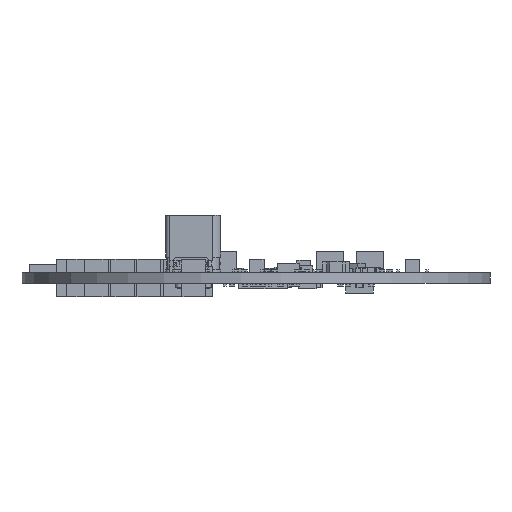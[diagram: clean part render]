
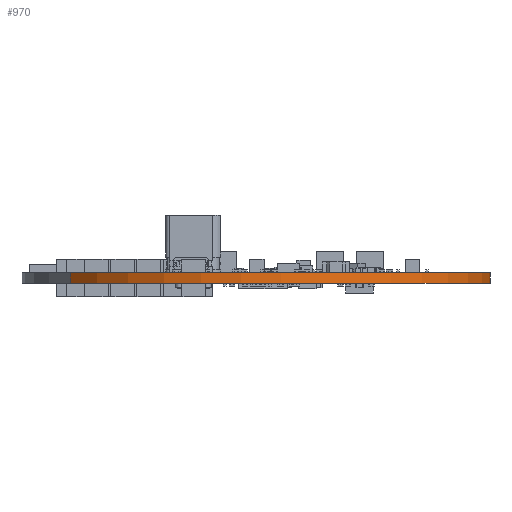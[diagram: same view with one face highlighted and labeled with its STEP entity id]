
A CAD part, front view. The second image highlights one B-rep face of the part: STEP entity #970.
In plain terms, the highlighted cylindrical face has radius 43.508 mm (diameter 87.015 mm), a partial arc.
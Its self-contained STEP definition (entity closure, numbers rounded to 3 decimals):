
#833 = EDGE_CURVE('',#834,#836,#838,.T.);
#834 = VERTEX_POINT('',#835);
#835 = CARTESIAN_POINT('',(-34.563,-26.427,0.));
#836 = VERTEX_POINT('',#837);
#837 = CARTESIAN_POINT('',(-34.563,-26.427,2.));
#838 = LINE('',#839,#840);
#839 = CARTESIAN_POINT('',(-34.563,-26.427,0.));
#840 = VECTOR('',#841,1.);
#841 = DIRECTION('',(0.,0.,1.));
#943 = VERTEX_POINT('',#944);
#944 = CARTESIAN_POINT('',(26.428,34.56,2.));
#951 = EDGE_CURVE('',#952,#943,#954,.T.);
#952 = VERTEX_POINT('',#953);
#953 = CARTESIAN_POINT('',(26.428,34.56,0.));
#954 = LINE('',#955,#956);
#955 = CARTESIAN_POINT('',(26.428,34.56,0.));
#956 = VECTOR('',#957,1.);
#957 = DIRECTION('',(0.,0.,1.));
#970 = ADVANCED_FACE('',(#971),#989,.T.);
#971 = FACE_BOUND('',#972,.T.);
#972 = EDGE_LOOP('',(#973,#974,#981,#982));
#973 = ORIENTED_EDGE('',*,*,#951,.T.);
#974 = ORIENTED_EDGE('',*,*,#975,.T.);
#975 = EDGE_CURVE('',#943,#836,#976,.T.);
#976 = CIRCLE('',#977,43.508);
#977 = AXIS2_PLACEMENT_3D('',#978,#979,#980);
#978 = CARTESIAN_POINT('',(-0.001,0.,
    2.));
#979 = DIRECTION('',(0.,-0.,-1.));
#980 = DIRECTION('',(0.607,0.794,-0.));
#981 = ORIENTED_EDGE('',*,*,#833,.F.);
#982 = ORIENTED_EDGE('',*,*,#983,.F.);
#983 = EDGE_CURVE('',#952,#834,#984,.T.);
#984 = CIRCLE('',#985,43.508);
#985 = AXIS2_PLACEMENT_3D('',#986,#987,#988);
#986 = CARTESIAN_POINT('',(-0.001,0.,0.));
#987 = DIRECTION('',(0.,-0.,-1.));
#988 = DIRECTION('',(0.607,0.794,-0.));
#989 = CYLINDRICAL_SURFACE('',#990,43.508);
#990 = AXIS2_PLACEMENT_3D('',#991,#992,#993);
#991 = CARTESIAN_POINT('',(-0.001,0.,0.));
#992 = DIRECTION('',(0.,-0.,-1.));
#993 = DIRECTION('',(0.607,0.794,-0.));
